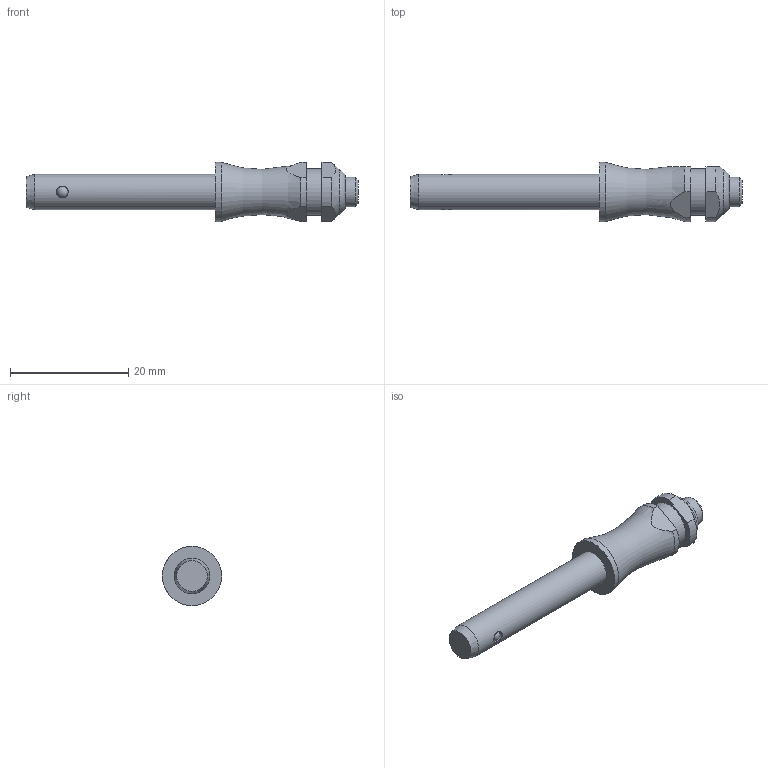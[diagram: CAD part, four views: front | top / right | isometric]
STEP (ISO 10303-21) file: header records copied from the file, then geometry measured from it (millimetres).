
FILE_DESCRIPTION( ( 'STEP AP203' ), '1' );
FILE_NAME( 'C:/Temp/Ganter_Step_05_03_2020/data/3_1/gn113_3/Stainless Steel-Ball lock pin GN 113.3-6-25 (activated).stp', '2020-03-12T08:18:16', ( 'License CC BY-ND 4.0' ), ( 'CADENAS' ), ' ', 'PARTsolutions', ' ' );
FILE_SCHEMA( ( 'CONFIG_CONTROL_DESIGN' ) );
Length unit declared in the file: millimetre
Products named in the file (1): _Stainless Steel-Ball lock pin GN 113.3-6-25 (activated)
Bounding box: 56.15 x 10 x 10 mm (x, y, z)
Volume: 2196 mm3; surface area: 1405 mm2
Topology: 1 solids, 1 shells, 31 faces, 73 edges, 46 vertices
Faces by surface type: plane 12, cylinder 12, cone 3, torus 2, sphere 2
Full cylindrical faces by diameter (mm): 2 x2, 5 x1, 6 x1, 7.9 x1, 10 x1
Entity records: 962 total; most frequent: CARTESIAN_POINT 298, DIRECTION 134, ORIENTED_EDGE 104, AXIS2_PLACEMENT_3D 58, EDGE_CURVE 52, EDGE_LOOP 48, VERTEX_POINT 40, FACE_OUTER_BOUND 39
